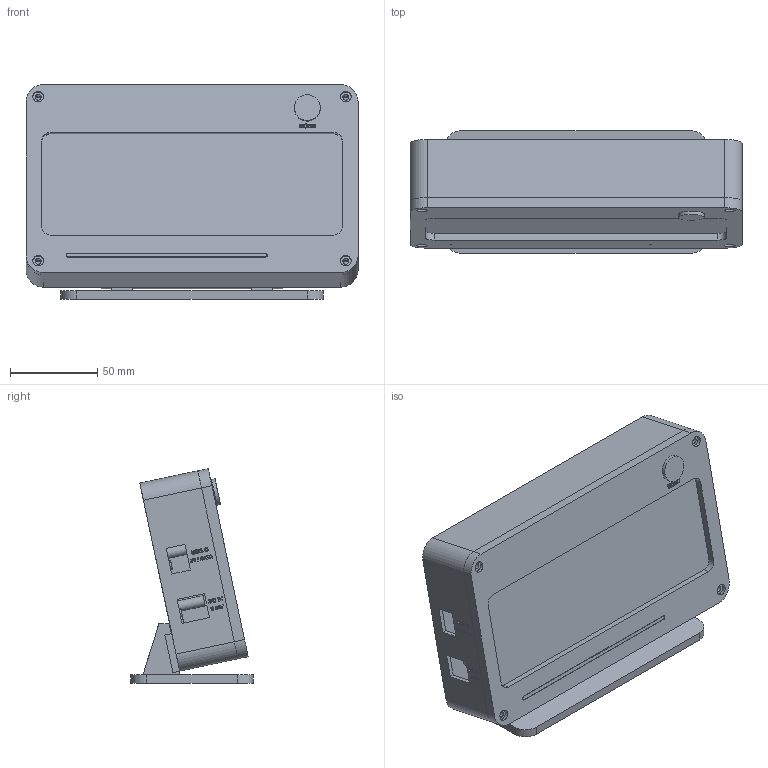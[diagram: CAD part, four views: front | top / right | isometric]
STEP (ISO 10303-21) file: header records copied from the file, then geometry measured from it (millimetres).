
FILE_DESCRIPTION(('Open CASCADE Model'),'2;1');
FILE_NAME('Open CASCADE Shape Model','2026-10-18T19:44:56',('Author'),( 'Open CASCADE'),'Open CASCADE STEP processor 7.9','Open CASCADE 7.9' ,'Unknown');
FILE_SCHEMA(('AUTOMOTIVE_DESIGN { 1 0 10303 214 1 1 1 1 }'));
Length unit declared in the file: millimetre
Products named in the file (11): Mystery Box; 01_body_forest; 02_front_bone; 03_glass_retainer; 04_accent_copper; 05_desk_stand; button_cap; capture_washer; button_carrier; NO_SWITCH_spacer_REMOVE_before_switch; CUT_clear_acrylic_2mm
Assembly tree (10 placements, depth 2):
  Mystery Box
    01_body_forest
    02_front_bone
    03_glass_retainer
    04_accent_copper
    05_desk_stand
    button_cap
    capture_washer
    button_carrier
    NO_SWITCH_spacer_REMOVE_before_switch
    CUT_clear_acrylic_2mm
Bounding box: 190 x 70 x 122.91 mm (x, y, z)
Volume: 272124.6 mm3; surface area: 180710.1 mm2
Topology: 10 solids, 10 shells, 2015 faces, 5583 edges, 3722 vertices
Faces by surface type: extrusion 892, plane 853, cylinder 270
Full cylindrical faces by diameter (mm): 2.2 x7, 2.9 x15, 3.3 x8, 4.2 x4, 4.8 x1, 5 x4, 5.4 x2, 6 x4, 6.1 x4, 6.4 x2, 8 x2, 9.8 x1, 10 x1, 10.4 x4, 10.6 x1, 14.6 x1, 15 x1
Entity records: 154818 total; most frequent: CARTESIAN_POINT 50058, DIRECTION 15848, VECTOR 12051, ORIENTED_EDGE 11166, PCURVE 11166, DEFINITIONAL_REPRESENTATION 11166, LINE 11159, EDGE_CURVE 5583
